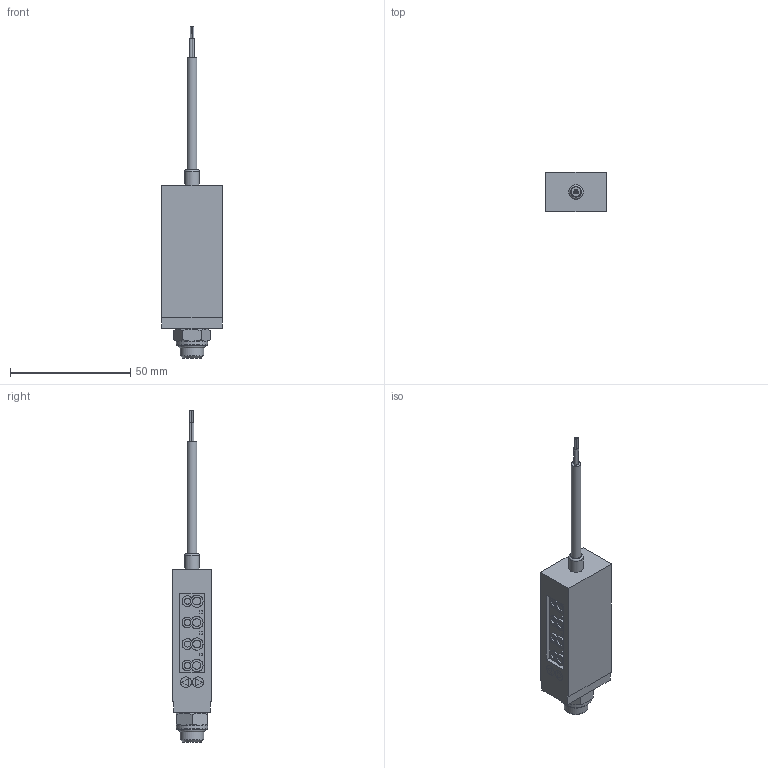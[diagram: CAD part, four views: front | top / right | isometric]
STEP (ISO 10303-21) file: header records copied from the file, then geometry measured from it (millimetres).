
FILE_DESCRIPTION(/* description */ ('VACUOSTATO DIGITALE GIREVOLE (VAC30G)'),/* implementation_level */ '2;1');
FILE_NAME(/* name */ 'C:\PNX_VAULTFOLDER\Area Tecnica\Disegni\VARIE-3D\Componenti\1900 (vuoto)\DS_30_C_C_F8_#_0.stp',/* time_stamp */ '2018-06-18T15:50:36+02:00',/* author */ ('maniean1'),/* organization */ ('Pneumax S.p.A.'),/* preprocessor_version */ 'ST-DEVELOPER v16.5',/* originating_system */ 'Autodesk Inventor 2017',/* authorisation */ '');
FILE_SCHEMA (('AUTOMOTIVE_DESIGN { 1 0 10303 214 3 1 1 }'));
Length unit declared in the file: millimetre
Products named in the file (1): DS.30.C.C.F8.#.0
Bounding box: 25 x 16.5 x 137.8 mm (x, y, z)
Volume: 25961.8 mm3; surface area: 7547.8 mm2
Topology: 1 solids, 3 shells, 190 faces, 428 edges, 279 vertices
Faces by surface type: plane 86, bspline 64, cylinder 22, cone 14, torus 4
Full cylindrical faces by diameter (mm): 0.6 x3, 2 x2, 2.2 x2, 3.8 x2, 4 x3, 6 x1, 9.73 x1, 12.9 x1, 13 x1
Entity records: 5977 total; most frequent: CARTESIAN_POINT 1975, ORIENTED_EDGE 810, DIRECTION 567, EDGE_CURVE 402, VERTEX_POINT 275, EDGE_LOOP 251, STYLED_ITEM 190, FACE_OUTER_BOUND 190
